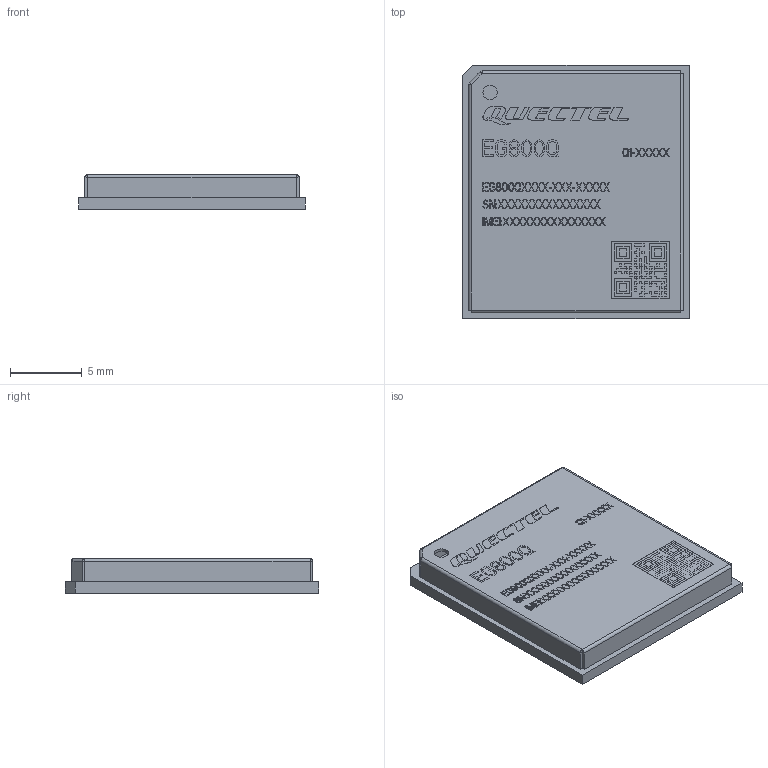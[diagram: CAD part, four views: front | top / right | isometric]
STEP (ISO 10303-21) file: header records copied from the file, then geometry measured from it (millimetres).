
FILE_DESCRIPTION((''),'2;1');
FILE_NAME('EG800XX_ASM','2024-07-31T',('atim.chen'),(''),'CREO PARAMETRIC BY PTC INC, 2014190','CREO PARAMETRIC BY PTC INC, 2014190','');
FILE_SCHEMA(('AUTOMOTIVE_DESIGN { 1 0 10303 214 1 1 1 1 }'));
Products named in the file (3): EG800XX-PCB; EG800XX-COVER; EG800XX_ASM
Assembly tree (2 placements, depth 2):
  EG800XX_ASM
    EG800XX-PCB
    EG800XX-COVER
Bounding box: 15.8 x 17.7 x 2.4 mm (x, y, z)
Volume: 289.7 mm3; surface area: 1307.4 mm2
Topology: 2 solids, 2 shells, 2334 faces, 6206 edges, 4098 vertices
Faces by surface type: plane 2289, extrusion 38, cylinder 7
Entity records: 92217 total; most frequent: CARTESIAN_POINT 12981, ORIENTED_EDGE 12412, DIRECTION 10784, PRESENTATION_STYLE_ASSIGNMENT 6413, STYLED_ITEM 6208, CURVE_STYLE 6206, EDGE_CURVE 6206, VECTOR 6154
